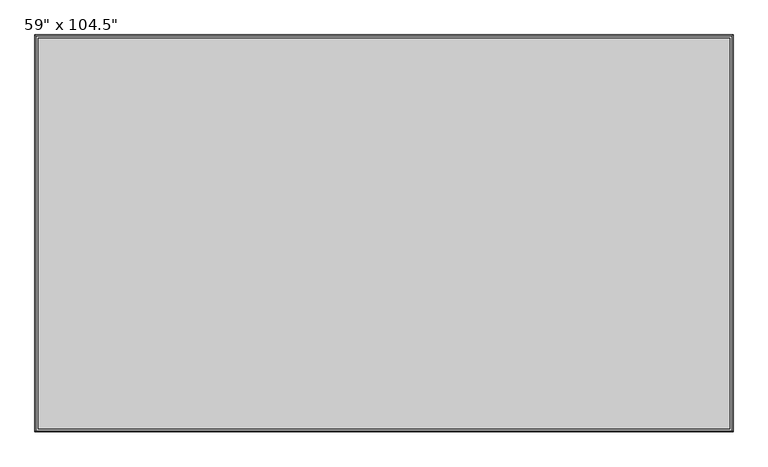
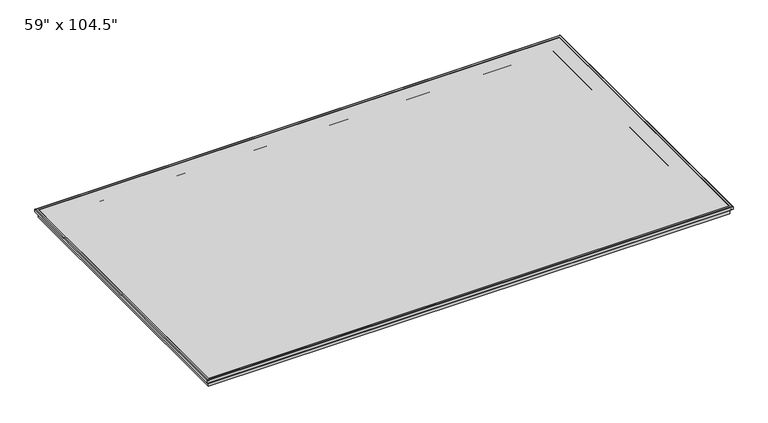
"""IFC4 building model written with IfcOpenShell, lengths in millimetres: proxy geometry."""

from ifc_helpers import new_model, si_unit, frame, origin, place, context, project, spatial, polyline, ellipse_curve, outline, extrude, source, transform, mapped, element, save
from ifc_brep_helpers import plane_surface, cylinder_surface, revolved_surface, advanced_brep


def proxy_49ebb362(model_context):
    return source(origin(), model_context, "Body", "SolidModel", [
        advanced_brep(
        [(-1327.15, -749.3, 38.7617518), (-1327.15, -749.3, 41.275), (1327.15, -749.3, 41.275), (1327.15, -749.3, 38.7617518), (-1249.85, -672.0, 0.0), (-1249.85, -672.0, 38.7617518), (1249.85, -672.0, 38.7617518), (1249.85, -672.0, 0.0), (-1329.85, -752.0, 14.8528553), (-1329.85, -752.0, 0.0), (1329.85, -752.0, 0.0), (1329.85, -752.0, 14.8528553), (-1330.8289908, -752.9789908, 17.8246368), (1330.8289908, -752.9789908, 17.8246368), (-1335.7868179, -757.9368179, 24.532892), (1335.7868179, -757.9368179, 24.532892), (-1337.2580712, -759.4080712, 25.275), (1337.2580712, -759.4080712, 25.275), (-1339.85, -762.0, 38.275), (-1339.85, -762.0, 25.275), (1339.85, -762.0, 25.275), (1339.85, -762.0, 38.275), (-1336.85, -759.0, 41.275), (1336.85, -759.0, 41.275), (1327.15, 749.3, 41.275), (1327.15, 749.3, 38.7617518), (1249.85, 672.0, 38.7617518), (1249.85, 672.0, 0.0), (1329.85, 752.0, 0.0), (1329.85, 752.0, 14.8528553), (1330.8289908, 752.9789908, 17.8246368), (1335.7868179, 757.9368179, 24.532892), (1337.2580712, 759.4080712, 25.275), (1339.85, 762.0, 25.275), (1339.85, 762.0, 38.275), (1336.85, 759.0, 41.275), (-1327.15, 749.3, 41.275), (-1327.15, 749.3, 38.7617518), (-1249.85, 672.0, 38.7617518), (-1249.85, 672.0, 0.0), (-1329.85, 752.0, 0.0), (-1329.85, 752.0, 14.8528553), (-1330.8289908, 752.9789908, 17.8246368), (-1335.7868179, 757.9368179, 24.532892), (-1337.2580712, 759.4080712, 25.275), (-1339.85, 762.0, 25.275), (-1339.85, 762.0, 38.275), (-1336.85, 759.0, 41.275)],
        [
            (0, 1),
            (1, 2),
            (2, 3),
            (3, 0),
            (4, 5),
            (5, 6),
            (6, 7),
            (7, 4),
            (8, 9),
            (9, 10),
            (10, 11),
            (11, 8),
            (12, 8, ellipse_curve(frame((-1334.85, -757.0, 14.8528553), z_axis=(-0.7071067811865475, 0.7071067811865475, 0.0), x_axis=(0.7071067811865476, 0.7071067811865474, 0.0)), 7.0710678, 5.0)),
            (11, 13, ellipse_curve(frame((1334.85, -757.0, 14.8528553), z_axis=(0.7071067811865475, 0.7071067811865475, 0.0), x_axis=(0.7071067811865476, -0.7071067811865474, 0.0)), 7.0710678, 5.0)),
            (13, 12),
            (14, 12),
            (13, 15),
            (15, 14),
            (16, 14, ellipse_curve(frame((-1337.2580712, -759.4080712, 23.4455422), z_axis=(-0.7071067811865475, 0.7071067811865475, 0.0), x_axis=(0.7071067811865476, 0.7071067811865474, 0.0)), 2.587244, 1.8294578)),
            (15, 17, ellipse_curve(frame((1337.2580712, -759.4080712, 23.4455422), z_axis=(0.7071067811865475, 0.7071067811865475, 0.0), x_axis=(0.7071067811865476, -0.7071067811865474, 0.0)), 2.587244, 1.8294578)),
            (17, 16),
            (18, 19),
            (19, 20),
            (20, 21),
            (21, 18),
            (22, 18, ellipse_curve(frame((-1336.85, -759.0, 38.275), z_axis=(0.7071067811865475, -0.7071067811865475, 0.0), x_axis=(-0.7071067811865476, -0.7071067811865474, 0.0)), 4.2426407, 3.0)),
            (21, 23, ellipse_curve(frame((1336.85, -759.0, 38.275), z_axis=(-0.7071067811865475, -0.7071067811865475, 0.0), x_axis=(-0.7071067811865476, 0.7071067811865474, 0.0)), 4.2426407, 3.0)),
            (23, 22),
            (2, 24),
            (24, 25),
            (25, 3),
            (6, 26),
            (26, 27),
            (27, 7),
            (10, 28),
            (28, 29),
            (29, 11),
            (29, 30, ellipse_curve(frame((1334.85, 757.0, 14.8528553), z_axis=(-0.7071067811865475, 0.7071067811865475, 0.0), x_axis=(0.7071067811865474, 0.7071067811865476, 0.0)), 7.0710678, 5.0)),
            (30, 13),
            (30, 31),
            (31, 15),
            (31, 32, ellipse_curve(frame((1337.2580712, 759.4080712, 23.4455422), z_axis=(-0.7071067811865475, 0.7071067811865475, 0.0), x_axis=(0.7071067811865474, 0.7071067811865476, 0.0)), 2.587244, 1.8294578)),
            (32, 17),
            (20, 33),
            (33, 34),
            (34, 21),
            (34, 35, ellipse_curve(frame((1336.85, 759.0, 38.275), z_axis=(0.7071067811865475, -0.7071067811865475, 0.0), x_axis=(-0.7071067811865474, -0.7071067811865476, 0.0)), 4.2426407, 3.0)),
            (35, 23),
            (24, 36),
            (36, 37),
            (37, 25),
            (26, 38),
            (38, 39),
            (39, 27),
            (28, 40),
            (40, 41),
            (41, 29),
            (41, 42, ellipse_curve(frame((-1334.85, 757.0, 14.8528553), z_axis=(-0.7071067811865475, -0.7071067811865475, 0.0), x_axis=(-0.7071067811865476, 0.7071067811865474, 0.0)), 7.0710678, 5.0)),
            (42, 30),
            (42, 43),
            (43, 31),
            (43, 44, ellipse_curve(frame((-1337.2580712, 759.4080712, 23.4455422), z_axis=(-0.7071067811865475, -0.7071067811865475, 0.0), x_axis=(-0.7071067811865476, 0.7071067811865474, 0.0)), 2.587244, 1.8294578)),
            (44, 32),
            (33, 45),
            (45, 46),
            (46, 34),
            (46, 47, ellipse_curve(frame((-1336.85, 759.0, 38.275), z_axis=(0.7071067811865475, 0.7071067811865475, 0.0), x_axis=(0.7071067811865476, -0.7071067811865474, 0.0)), 4.2426407, 3.0)),
            (47, 35),
            (36, 1),
            (0, 37),
            (5, 38),
            (4, 39),
            (9, 40),
            (8, 41),
            (12, 42),
            (14, 43),
            (16, 44),
            (19, 45),
            (18, 46),
            (22, 47),
        ],
        [
            plane_surface(frame((-1327.15, -749.3, 41.275), z_axis=(0.0, 1.0, 0.0), x_axis=(1.0, 0.0, 0.0))),
            plane_surface(frame((-1249.85, -672.0, 38.7617518), z_axis=(0.0, 1.0, 0.0), x_axis=(1.0, 0.0, 0.0))),
            plane_surface(frame((-1329.85, -752.0, 0.0), z_axis=(0.0, -1.0, 0.0), x_axis=(1.0, 0.0, 0.0))),
            revolved_surface(polyline([(1339.8499999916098, -752.0, 14.8528553), (-1339.8499999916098, -752.0, 14.8528553)]), (-1339.85, -757.0, 14.8528553), (1.0, 0.0, 0.0)),
            plane_surface(frame((-1330.8289908, -752.9789908, 17.8246368), z_axis=(0.0, -0.8042018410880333, -0.5943562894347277), x_axis=(1.0, 0.0, 0.0))),
            revolved_surface(polyline([(1339.0875289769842, -757.5786134, 23.4455422), (-1339.087528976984, -757.5786134, 23.4455422)]), (-1339.85, -759.4080712, 23.4455422), (1.0, 0.0, 0.0)),
            plane_surface(frame((-1339.85, -762.0, 25.275), z_axis=(0.0, -1.0, 0.0), x_axis=(1.0, 0.0, 0.0))),
            cylinder_surface(frame((-1339.85, -759.0, 38.275), z_axis=(-1.0, 0.0, 0.0), x_axis=(0.0, 1.0, 0.0)), 3.0),
            plane_surface(frame((1327.15, -749.3, 41.275), z_axis=(-1.0, 0.0, 0.0), x_axis=(0.0, 1.0, 0.0))),
            plane_surface(frame((1249.85, -672.0, 38.7617518), z_axis=(-1.0, 0.0, 0.0), x_axis=(0.0, 1.0, 0.0))),
            plane_surface(frame((1329.85, -752.0, 0.0), z_axis=(1.0, 0.0, 0.0), x_axis=(0.0, 1.0, 0.0))),
            revolved_surface(polyline([(1329.85, 761.9999999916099, 14.8528553), (1329.85, -761.9999999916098, 14.8528553)]), (1334.85, -762.0, 14.8528553), (0.0, 1.0, 0.0)),
            plane_surface(frame((1330.8289908, -752.9789908, 17.8246368), z_axis=(0.8042018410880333, 0.0, -0.5943562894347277), x_axis=(0.0, 1.0, 0.0))),
            revolved_surface(polyline([(1335.4286134, 761.2375289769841, 23.4455422), (1335.4286134, -761.2375289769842, 23.4455422)]), (1337.2580712, -762.0, 23.4455422), (0.0, 1.0, 0.0)),
            plane_surface(frame((1339.85, -762.0, 25.275), z_axis=(1.0, 0.0, 0.0), x_axis=(0.0, 1.0, 0.0))),
            cylinder_surface(frame((1336.85, -762.0, 38.275), z_axis=(0.0, -1.0, 0.0), x_axis=(-1.0, 0.0, 0.0)), 3.0),
            plane_surface(frame((1327.15, 749.3, 41.275), z_axis=(0.0, -1.0, 0.0), x_axis=(-1.0, 0.0, 0.0))),
            plane_surface(frame((1249.85, 672.0, 38.7617518), z_axis=(0.0, -1.0, 0.0), x_axis=(-1.0, 0.0, 0.0))),
            plane_surface(frame((1329.85, 752.0, 0.0), z_axis=(0.0, 1.0, 0.0), x_axis=(-1.0, 0.0, 0.0))),
            revolved_surface(polyline([(-1339.8499999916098, 752.0, 14.8528553), (1339.8499999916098, 752.0, 14.8528553)]), (1339.85, 757.0, 14.8528553), (-1.0, 0.0, 0.0)),
            plane_surface(frame((1330.8289908, 752.9789908, 17.8246368), z_axis=(0.0, 0.8042018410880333, -0.5943562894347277), x_axis=(-1.0, 0.0, 0.0))),
            revolved_surface(polyline([(-1339.0875289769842, 757.5786134, 23.4455422), (1339.087528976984, 757.5786134, 23.4455422)]), (1339.85, 759.4080712, 23.4455422), (-1.0, 0.0, 0.0)),
            plane_surface(frame((1339.85, 762.0, 25.275), z_axis=(0.0, 1.0, 0.0), x_axis=(-1.0, 0.0, 0.0))),
            cylinder_surface(frame((1339.85, 759.0, 38.275), z_axis=(1.0, 0.0, 0.0), x_axis=(0.0, -1.0, 0.0)), 3.0),
            plane_surface(frame((-1327.15, 749.3, 41.275), z_axis=(1.0, 0.0, 0.0), x_axis=(0.0, -1.0, 0.0))),
            plane_surface(frame((-1327.15, 749.3, 38.7617518), z_axis=(0.0, 0.0, 1.0), x_axis=(0.0, -1.0, 0.0))),
            plane_surface(frame((-1249.85, 672.0, 38.7617518), z_axis=(1.0, 0.0, 0.0), x_axis=(0.0, -1.0, 0.0))),
            plane_surface(frame((-1249.85, 672.0, 0.0), z_axis=(0.0, 0.0, -1.0), x_axis=(0.0, -1.0, 0.0))),
            plane_surface(frame((-1329.85, 752.0, 0.0), z_axis=(-1.0, 0.0, 0.0), x_axis=(0.0, -1.0, 0.0))),
            revolved_surface(polyline([(-1329.85, -761.9999999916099, 14.8528553), (-1329.85, 761.9999999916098, 14.8528553)]), (-1334.85, 762.0, 14.8528553), (0.0, -1.0, 0.0)),
            plane_surface(frame((-1330.8289908, 752.9789908, 17.8246368), z_axis=(-0.8042018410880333, 0.0, -0.5943562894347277), x_axis=(0.0, -1.0, 0.0))),
            revolved_surface(polyline([(-1335.4286134, -761.2375289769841, 23.4455422), (-1335.4286134, 761.2375289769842, 23.4455422)]), (-1337.2580712, 762.0, 23.4455422), (0.0, -1.0, 0.0)),
            plane_surface(frame((-1337.2580712, 759.4080712, 25.275), z_axis=(0.0, 0.0, -1.0), x_axis=(0.0, -1.0, 0.0))),
            plane_surface(frame((-1339.85, 762.0, 25.275), z_axis=(-1.0, 0.0, 0.0), x_axis=(0.0, -1.0, 0.0))),
            cylinder_surface(frame((-1336.85, 762.0, 38.275), z_axis=(0.0, 1.0, 0.0), x_axis=(1.0, 0.0, 0.0)), 3.0),
            plane_surface(frame((-1336.85, 759.0, 41.275), z_axis=(0.0, 0.0, 1.0), x_axis=(0.0, -1.0, 0.0))),
        ],
        [
            (0, [[1, 2, 3, 4]]),
            (1, [[5, 6, 7, 8]]),
            (2, [[9, 10, 11, 12]]),
            (3, [[13, -12, 14, 15]]),
            (4, [[16, -15, 17, 18]]),
            (5, [[19, -18, 20, 21]]),
            (6, [[22, 23, 24, 25]]),
            (7, [[26, -25, 27, 28]]),
            (8, [[-3, 29, 30, 31]]),
            (9, [[-7, 32, 33, 34]]),
            (10, [[-11, 35, 36, 37]]),
            (11, [[-14, -37, 38, 39]]),
            (12, [[-17, -39, 40, 41]]),
            (13, [[-20, -41, 42, 43]]),
            (14, [[-24, 44, 45, 46]]),
            (15, [[-27, -46, 47, 48]]),
            (16, [[-30, 49, 50, 51]]),
            (17, [[-33, 52, 53, 54]]),
            (18, [[-36, 55, 56, 57]]),
            (19, [[-38, -57, 58, 59]]),
            (20, [[-40, -59, 60, 61]]),
            (21, [[-42, -61, 62, 63]]),
            (22, [[-45, 64, 65, 66]]),
            (23, [[-47, -66, 67, 68]]),
            (24, [[-50, 69, -1, 70]]),
            (25, [[-31, -51, -70, -4], [71, -52, -32, -6]]),
            (26, [[-53, -71, -5, 72]]),
            (27, [[73, -55, -35, -10], [-34, -54, -72, -8]]),
            (28, [[-56, -73, -9, 74]]),
            (29, [[-58, -74, -13, 75]]),
            (30, [[-60, -75, -16, 76]]),
            (31, [[-62, -76, -19, 77]]),
            (32, [[78, -64, -44, -23], [-43, -63, -77, -21]]),
            (33, [[-65, -78, -22, 79]]),
            (34, [[-67, -79, -26, 80]]),
            (35, [[-48, -68, -80, -28], [-69, -49, -29, -2]]),
        ],
    ),
        extrude(outline(polyline([(1327.15, 749.3), (1327.15, -749.3), (-1327.15, -749.3), (-1327.15, 749.3), (1327.15, 749.3)])), frame((0.0, 0.0, 38.7617518), z_axis=(0.0, 0.0, 1.0), x_axis=(1.0, 0.0, 0.0)), (0.0, 0.0, 1.0), 0.5132482),
    ])


if __name__ == "__main__":
    model = new_model("IFC4")
    model_context = context("Model", 3, world=origin())
    ifc_project = project(units=[si_unit("LENGTHUNIT", "METRE", prefix="MILLI")], contexts=[model_context])
    site = spatial("IfcSite", under=ifc_project)
    building = spatial("IfcBuilding", under=site)
    placement = place(None, origin())
    proxy_shape = proxy_49ebb362(model_context)
    element("IfcBuildingElementProxy", 1, Name="Electronics-Visual-Projectors_Da-Lite_Specialty-Equipment_Parallax-Thin : 59\" x 104.5\"", ObjectType="Electronics-Visual-Projectors_Da-Lite_Specialty-Equipment_Parallax-Thin : 59\" x 104.5\"", at=placement, inside=building, context=model_context, shape_type="MappedRepresentation", body=[
        mapped(proxy_shape, transform((0.0, 0.0, 0.0), x_axis=(1.0, 0.0, 0.0), y_axis=(0.0, 1.0, 0.0), z_axis=(0.0, 0.0, 1.0))),
    ])
    save(model, "model.ifc")
